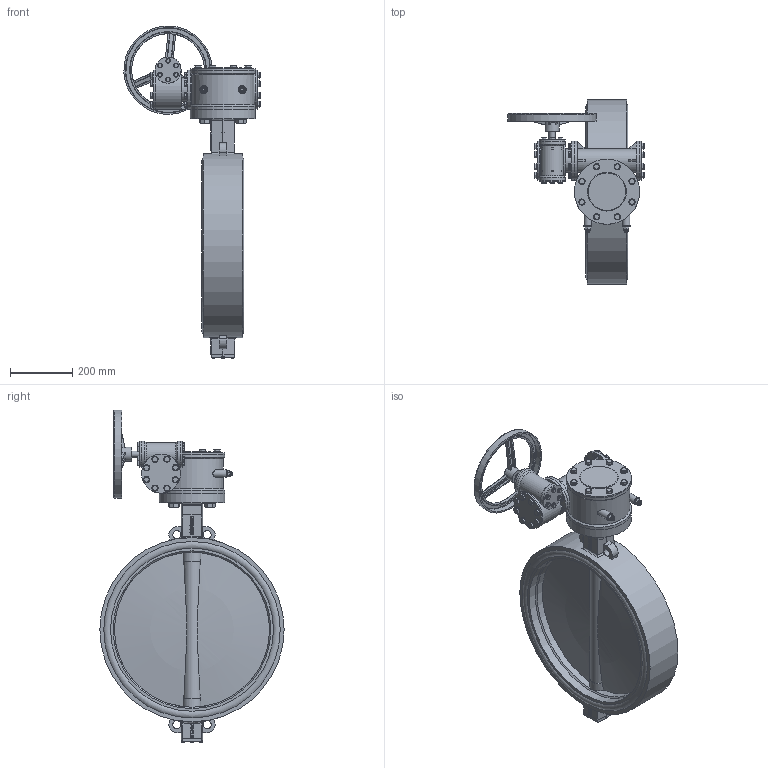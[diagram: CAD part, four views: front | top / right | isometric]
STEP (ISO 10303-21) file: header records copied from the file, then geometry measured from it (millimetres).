
FILE_DESCRIPTION(('STEP AP242'), '1');
FILE_NAME('Ïîâîðîòíûé çàòâîð ïîä ýëåêòðîïðèâîä', '', ('UNSPECIFIED'), ('UNSPECIFIED'), 'C3D Converter', 'C3D Toolkit', '');
FILE_SCHEMA(('AP242_MANAGED_MODEL_BASED_3D_ENGINEERING_MIM_LF { 1 0 10303 442 1 1 4 }'));
Length unit declared in the file: millimetre
Products named in the file (29): П; ШМ.М12.30
Assembly tree (130 placements, depth 3):
  (unnamed)
    (unnamed)
    П  x2
    (unnamed)
    (unnamed)
    (unnamed)
    (unnamed)
    (unnamed)  x4
    (unnamed)
      (unnamed)
      (unnamed)
      (unnamed)  x2
      (unnamed)
      (unnamed)
      (unnamed)
      (unnamed)
      (unnamed)
      (unnamed)  x2
      (unnamed)  x2
      (unnamed)  x32
      (unnamed)  x16
      (unnamed)  x8
      (unnamed)  x8
      ШМ.М12.30  x8
      (unnamed)  x12
      (unnamed)  x12
      (unnamed)
    (unnamed)  x4
    (unnamed)  x4
Bounding box: 438.66 x 594 x 1070.16 mm (x, y, z)
Volume: 26177477.3 mm3; surface area: 2946638.9 mm2
Topology: 129 solids, 129 shells, 1730 faces, 3741 edges, 2389 vertices
Faces by surface type: plane 930, cylinder 360, cone 171, extrusion 143, torus 62, bspline 60, sphere 4
Full cylindrical faces by diameter (mm): 5 x4, 6 x14, 8 x36, 8.4 x12, 10 x8, 10.647 x10, 12 x100, 12.564 x1, 13 x32, 15 x12, 20 x40, 21 x4, 22 x8, 24 x2, 26 x4, 34 x4, 45 x1, 46 x6, 60.325 x4, 65.054 x5, 76 x2, 84 x4, 121 x1, 126 x6, 200 x1, 210 x4, 235 x1, 245 x1, 275 x1, 285 x1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
Entity records: 45757 total; most frequent: CARTESIAN_POINT 21596, ORIENTED_EDGE 3558, DIRECTION 3394, EDGE_CURVE 1779, EDGE_LOOP 1329, VERTEX_POINT 1304, AXIS2_PLACEMENT_3D 1278, FACE_BOUND 907
